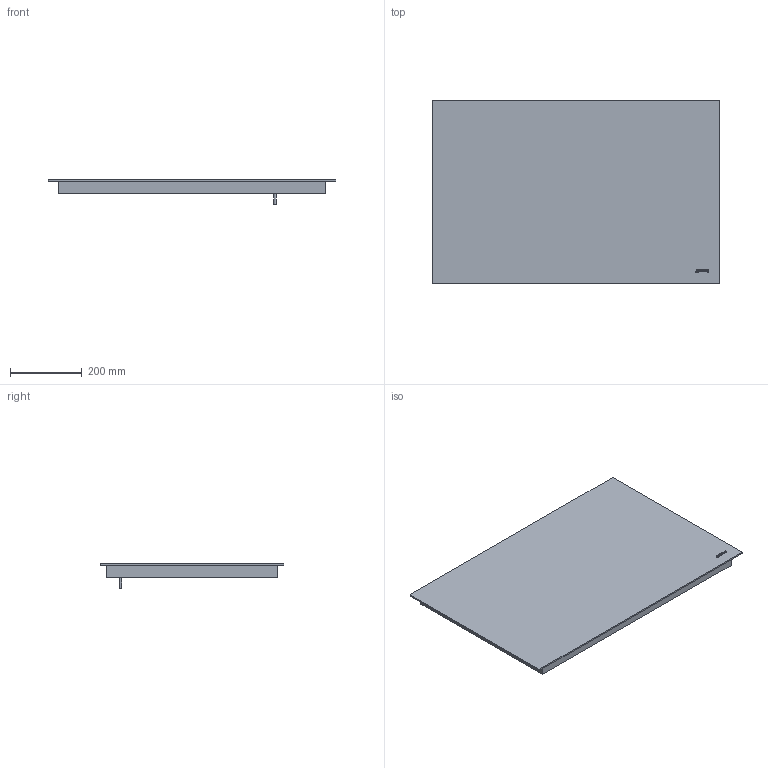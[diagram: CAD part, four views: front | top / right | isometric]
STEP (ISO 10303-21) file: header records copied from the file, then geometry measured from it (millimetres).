
FILE_DESCRIPTION(/* description */ (''),/* implementation_level */ '2;1');
FILE_NAME(/* name */ 'SIM3864D.stp',/* time_stamp */ '2021-07-29T17:47:19+02:00',/* author */ (''),/* organization */ (''),/* preprocessor_version */ 'ST-DEVELOPER v16',/* originating_system */ 'SIEMENS PLM Software NX 11.0',/* authorisation */ '');
FILE_SCHEMA (('AUTOMOTIVE_DESIGN { 1 0 10303 214 3 1 1 1 }'));
Length unit declared in the file: millimetre
Products named in the file (1): mart2CE4D59Czvx5
Bounding box: 800 x 510 x 69.1 mm (x, y, z)
Volume: 14046546.9 mm3; surface area: 1622143.3 mm2
Topology: 12 solids, 12 shells, 95 faces, 210 edges, 140 vertices
Faces by surface type: plane 59, cylinder 25, extrusion 11
Full cylindrical faces by diameter (mm): 3.37 x6, 6 x1
Entity records: 2928 total; most frequent: CARTESIAN_POINT 741, DIRECTION 410, ORIENTED_EDGE 404, EDGE_CURVE 202, VECTOR 140, VERTEX_POINT 140, AXIS2_PLACEMENT_3D 135, LINE 129
